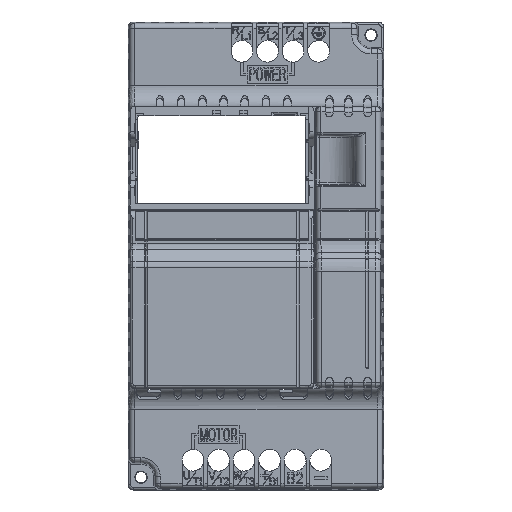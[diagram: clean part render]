
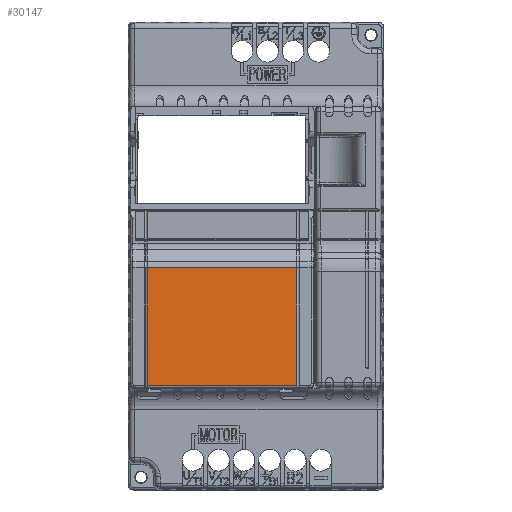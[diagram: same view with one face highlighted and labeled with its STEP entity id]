
A CAD part, top view. The second image highlights one B-rep face of the part: STEP entity #30147.
In plain terms, the highlighted planar face has unit normal (0, 0, 1).
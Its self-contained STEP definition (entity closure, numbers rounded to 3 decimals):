
#1129 = VECTOR ( 'NONE', #1578, 1000. ) ;
#1144 = VECTOR ( 'NONE', #1626, 1000. ) ;
#1162 = VECTOR ( 'NONE', #1724, 1000. ) ;
#1163 = VECTOR ( 'NONE', #1792, 1000. ) ;
#1576 = LINE ( 'NONE', #1577, #1129 ) ;
#1577 = CARTESIAN_POINT ( 'NONE',  ( -42.6, 87.672, 137.6 ) ) ;
#1578 = DIRECTION ( 'NONE',  ( 0., -1., 0. ) ) ;
#1624 = LINE ( 'NONE', #1625, #1144 ) ;
#1625 = CARTESIAN_POINT ( 'NONE',  ( -13.3, 86.732, 137.6 ) ) ;
#1626 = DIRECTION ( 'NONE',  ( -1., 0., 0. ) ) ;
#1722 = LINE ( 'NONE', #1723, #1162 ) ;
#1723 = CARTESIAN_POINT ( 'NONE',  ( 16., 63.673, 137.6 ) ) ;
#1724 = DIRECTION ( 'NONE',  ( 0., 1., 0. ) ) ;
#1789 = LINE ( 'NONE', #1790, #1163 ) ;
#1790 = CARTESIAN_POINT ( 'NONE',  ( -48.66, 40.614, 137.6 ) ) ;
#1792 = DIRECTION ( 'NONE',  ( -1., 0., 0. ) ) ;
#6642 = VERTEX_POINT ( 'NONE', #103112 ) ;
#6646 = VERTEX_POINT ( 'NONE', #103115 ) ;
#6655 = VERTEX_POINT ( 'NONE', #103121 ) ;
#6682 = VERTEX_POINT ( 'NONE', #103140 ) ;
#30147 = ADVANCED_FACE ( 'NONE', ( #165343 ), #166849, .T. ) ;
#31324 = EDGE_LOOP ( 'NONE', ( #39586, #39590, #39592, #39594 ) ) ;
#36543 = EDGE_CURVE ( 'NONE', #6642, #6646, #1576, .T. ) ;
#36559 = EDGE_CURVE ( 'NONE', #6655, #6642, #1624, .T. ) ;
#36581 = EDGE_CURVE ( 'NONE', #6682, #6655, #1722, .T. ) ;
#36583 = EDGE_CURVE ( 'NONE', #6682, #6646, #1789, .T. ) ;
#39586 = ORIENTED_EDGE ( 'NONE', *, *, #36559, .T. ) ;
#39590 = ORIENTED_EDGE ( 'NONE', *, *, #36543, .T. ) ;
#39592 = ORIENTED_EDGE ( 'NONE', *, *, #36583, .F. ) ;
#39594 = ORIENTED_EDGE ( 'NONE', *, *, #36581, .T. ) ;
#103112 = CARTESIAN_POINT ( 'NONE',  ( -42.6, 86.732, 137.6 ) ) ;
#103115 = CARTESIAN_POINT ( 'NONE',  ( -42.6, 40.614, 137.6 ) ) ;
#103121 = CARTESIAN_POINT ( 'NONE',  ( 16., 86.732, 137.6 ) ) ;
#103140 = CARTESIAN_POINT ( 'NONE',  ( 16., 40.614, 137.6 ) ) ;
#165343 = FACE_OUTER_BOUND ( 'NONE', #31324, .T. ) ;
#165349 = AXIS2_PLACEMENT_3D ( 'NONE', #166850, #166851, #166852 ) ;
#166849 = PLANE ( 'NONE',  #165349 ) ;
#166850 = CARTESIAN_POINT ( 'NONE',  ( -13.3, 63.673, 137.6 ) ) ;
#166851 = DIRECTION ( 'NONE',  ( 0., 0., 1. ) ) ;
#166852 = DIRECTION ( 'NONE',  ( 1., 0., 0. ) ) ;
